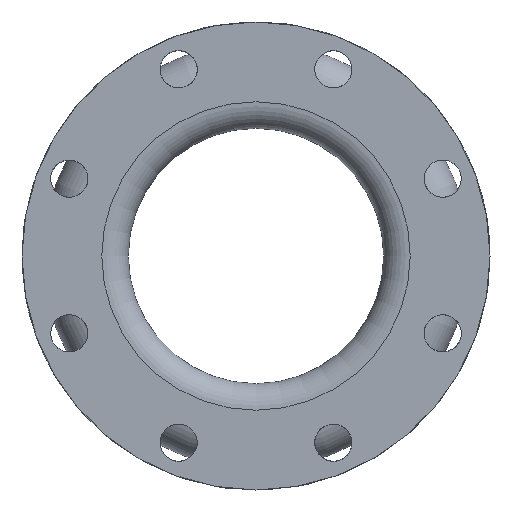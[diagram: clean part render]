
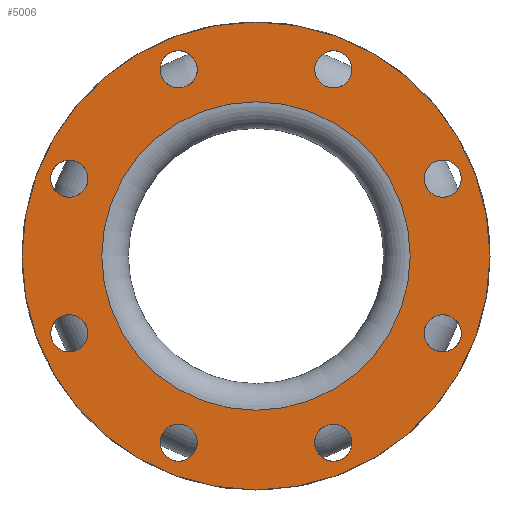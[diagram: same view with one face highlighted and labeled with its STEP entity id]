
A CAD part, left-side view. The second image highlights one B-rep face of the part: STEP entity #5006.
In plain terms, the highlighted planar face has unit normal (-1, 0, 0).
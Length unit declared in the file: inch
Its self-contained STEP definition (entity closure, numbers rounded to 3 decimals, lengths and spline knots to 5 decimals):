
#123=FACE_BOUND('',#995,.T.);
#124=FACE_BOUND('',#996,.T.);
#125=FACE_BOUND('',#997,.T.);
#126=FACE_BOUND('',#998,.T.);
#127=FACE_BOUND('',#999,.T.);
#128=FACE_BOUND('',#1000,.T.);
#129=FACE_BOUND('',#1001,.T.);
#130=FACE_BOUND('',#1002,.T.);
#131=FACE_BOUND('',#1003,.T.);
#607=FACE_OUTER_BOUND('',#994,.T.);
#994=EDGE_LOOP('',(#4324));
#995=EDGE_LOOP('',(#4325));
#996=EDGE_LOOP('',(#4326));
#997=EDGE_LOOP('',(#4327));
#998=EDGE_LOOP('',(#4328));
#999=EDGE_LOOP('',(#4329));
#1000=EDGE_LOOP('',(#4330));
#1001=EDGE_LOOP('',(#4331));
#1002=EDGE_LOOP('',(#4332));
#1003=EDGE_LOOP('',(#4333));
#1860=CIRCLE('',#5671,0.4375);
#1861=CIRCLE('',#5673,0.4375);
#1862=CIRCLE('',#5675,0.4375);
#1863=CIRCLE('',#5677,0.4375);
#1864=CIRCLE('',#5679,0.4375);
#1865=CIRCLE('',#5681,0.4375);
#1866=CIRCLE('',#5683,0.4375);
#1867=CIRCLE('',#5685,0.4375);
#1877=CIRCLE('',#5704,3.625);
#1893=CIRCLE('',#5739,5.5);
#2302=VERTEX_POINT('',#8726);
#2303=VERTEX_POINT('',#8729);
#2304=VERTEX_POINT('',#8732);
#2305=VERTEX_POINT('',#8735);
#2306=VERTEX_POINT('',#8738);
#2307=VERTEX_POINT('',#8741);
#2308=VERTEX_POINT('',#8744);
#2309=VERTEX_POINT('',#8747);
#2319=VERTEX_POINT('',#8776);
#2335=VERTEX_POINT('',#8827);
#2968=EDGE_CURVE('',#2302,#2302,#1860,.T.);
#2969=EDGE_CURVE('',#2303,#2303,#1861,.T.);
#2970=EDGE_CURVE('',#2304,#2304,#1862,.T.);
#2971=EDGE_CURVE('',#2305,#2305,#1863,.T.);
#2972=EDGE_CURVE('',#2306,#2306,#1864,.T.);
#2973=EDGE_CURVE('',#2307,#2307,#1865,.T.);
#2974=EDGE_CURVE('',#2308,#2308,#1866,.T.);
#2975=EDGE_CURVE('',#2309,#2309,#1867,.T.);
#2985=EDGE_CURVE('',#2319,#2319,#1877,.T.);
#3001=EDGE_CURVE('',#2335,#2335,#1893,.T.);
#4324=ORIENTED_EDGE('',*,*,#3001,.T.);
#4325=ORIENTED_EDGE('',*,*,#2968,.T.);
#4326=ORIENTED_EDGE('',*,*,#2969,.T.);
#4327=ORIENTED_EDGE('',*,*,#2970,.T.);
#4328=ORIENTED_EDGE('',*,*,#2971,.T.);
#4329=ORIENTED_EDGE('',*,*,#2972,.T.);
#4330=ORIENTED_EDGE('',*,*,#2973,.T.);
#4331=ORIENTED_EDGE('',*,*,#2974,.T.);
#4332=ORIENTED_EDGE('',*,*,#2975,.T.);
#4333=ORIENTED_EDGE('',*,*,#2985,.F.);
#4425=PLANE('',#5740);
#5006=ADVANCED_FACE('',(#607,#123,#124,#125,#126,#127,#128,#129,#130,#131),
#4425,.T.);
#5671=AXIS2_PLACEMENT_3D('',#8727,#7291,#7292);
#5673=AXIS2_PLACEMENT_3D('',#8730,#7295,#7296);
#5675=AXIS2_PLACEMENT_3D('',#8733,#7299,#7300);
#5677=AXIS2_PLACEMENT_3D('',#8736,#7303,#7304);
#5679=AXIS2_PLACEMENT_3D('',#8739,#7307,#7308);
#5681=AXIS2_PLACEMENT_3D('',#8742,#7311,#7312);
#5683=AXIS2_PLACEMENT_3D('',#8745,#7315,#7316);
#5685=AXIS2_PLACEMENT_3D('',#8748,#7319,#7320);
#5704=AXIS2_PLACEMENT_3D('',#8777,#7357,#7358);
#5739=AXIS2_PLACEMENT_3D('',#8828,#7427,#7428);
#5740=AXIS2_PLACEMENT_3D('',#8829,#7429,#7430);
#7291=DIRECTION('center_axis',(1.,0.,0.));
#7292=DIRECTION('ref_axis',(0.,-0.707,0.707));
#7295=DIRECTION('center_axis',(1.,0.,0.));
#7296=DIRECTION('ref_axis',(0.,-1.,0.));
#7299=DIRECTION('center_axis',(1.,0.,0.));
#7300=DIRECTION('ref_axis',(0.,-0.707,-0.707));
#7303=DIRECTION('center_axis',(1.,0.,0.));
#7304=DIRECTION('ref_axis',(0.,0.,
-1.));
#7307=DIRECTION('center_axis',(1.,0.,0.));
#7308=DIRECTION('ref_axis',(0.,0.707,-0.707));
#7311=DIRECTION('center_axis',(1.,0.,0.));
#7312=DIRECTION('ref_axis',(0.,1.,0.));
#7315=DIRECTION('center_axis',(1.,0.,0.));
#7316=DIRECTION('ref_axis',(0.,0.707,0.707));
#7319=DIRECTION('center_axis',(1.,0.,0.));
#7320=DIRECTION('ref_axis',(0.,0.,1.));
#7357=DIRECTION('center_axis',(-1.,0.,0.));
#7358=DIRECTION('ref_axis',(0.,0.,-1.));
#7427=DIRECTION('center_axis',(-1.,0.,0.));
#7428=DIRECTION('ref_axis',(0.,0.,-1.));
#7429=DIRECTION('center_axis',(-1.,0.,0.));
#7430=DIRECTION('ref_axis',(0.,0.,-1.));
#8726=CARTESIAN_POINT('',(-3.,-4.07907,-2.12711));
#8727=CARTESIAN_POINT('Origin',(-3.,-4.38843,-1.81775));
#8729=CARTESIAN_POINT('',(-3.,-1.38025,-4.38843));
#8730=CARTESIAN_POINT('Origin',(-3.,-1.81775,-4.38843));
#8732=CARTESIAN_POINT('',(-3.,2.12711,-4.07907));
#8733=CARTESIAN_POINT('Origin',(-3.,1.81775,-4.38843));
#8735=CARTESIAN_POINT('',(-3.,4.38843,-1.38025));
#8736=CARTESIAN_POINT('Origin',(-3.,4.38843,-1.81775));
#8738=CARTESIAN_POINT('',(-3.,4.07907,2.12711));
#8739=CARTESIAN_POINT('Origin',(-3.,4.38843,1.81775));
#8741=CARTESIAN_POINT('',(-3.,1.38025,4.38843));
#8742=CARTESIAN_POINT('Origin',(-3.,1.81775,4.38843));
#8744=CARTESIAN_POINT('',(-3.,-2.12711,4.07907));
#8745=CARTESIAN_POINT('Origin',(-3.,-1.81775,4.38843));
#8747=CARTESIAN_POINT('',(-3.,-4.38843,1.38025));
#8748=CARTESIAN_POINT('Origin',(-3.,-4.38843,1.81775));
#8776=CARTESIAN_POINT('',(-3.,-3.625,0.));
#8777=CARTESIAN_POINT('Origin',(-3.,0.,0.));
#8827=CARTESIAN_POINT('',(-3.,-5.5,0.));
#8828=CARTESIAN_POINT('Origin',(-3.,0.,0.));
#8829=CARTESIAN_POINT('Origin',(-3.,-3.625,0.));
